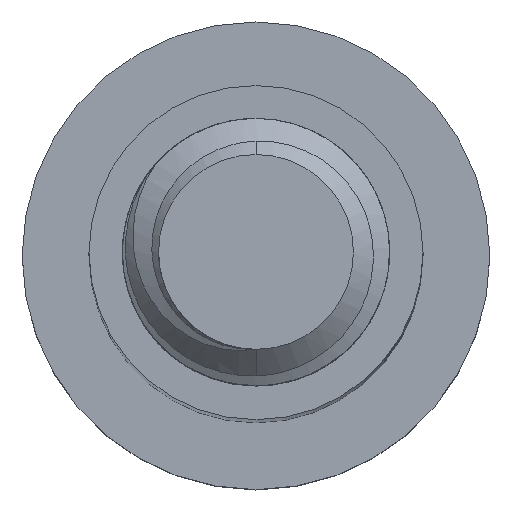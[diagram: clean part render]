
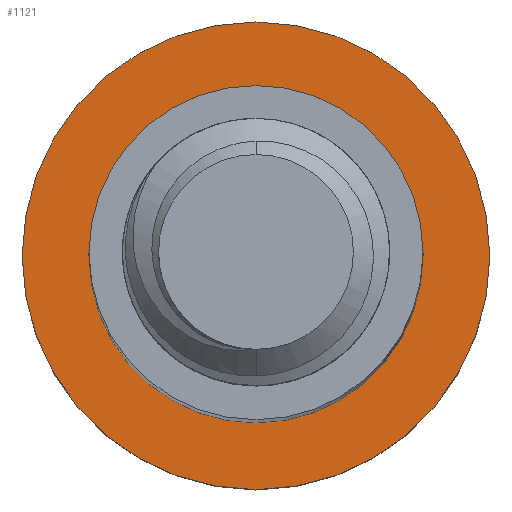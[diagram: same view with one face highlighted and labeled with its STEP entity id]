
A CAD part, top view. The second image highlights one B-rep face of the part: STEP entity #1121.
In plain terms, the highlighted planar face has unit normal (0, 0, 1).
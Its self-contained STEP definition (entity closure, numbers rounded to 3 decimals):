
#238 = CARTESIAN_POINT ( 'NONE',  ( 0., 0., -55. ) ) ;
#291 = ORIENTED_EDGE ( 'NONE', *, *, #2281, .F. ) ;
#336 = CIRCLE ( 'NONE', #2948, 7. ) ;
#356 = VERTEX_POINT ( 'NONE', #2694 ) ;
#473 = CIRCLE ( 'NONE', #2870, 7. ) ;
#585 = CARTESIAN_POINT ( 'NONE',  ( -7., 0., -55. ) ) ;
#678 = VERTEX_POINT ( 'NONE', #585 ) ;
#863 = DIRECTION ( 'NONE',  ( 0., 0., -1. ) ) ;
#915 = FACE_BOUND ( 'NONE', #3228, .T. ) ;
#948 = DIRECTION ( 'NONE',  ( -1., 0., 0. ) ) ;
#1121 = ADVANCED_FACE ( 'NONE', ( #915, #1468 ), #4093, .F. ) ;
#1200 = EDGE_CURVE ( 'NONE', #1536, #2828, #2665, .T. ) ;
#1299 = AXIS2_PLACEMENT_3D ( 'NONE', #4232, #1954, #948 ) ;
#1335 = EDGE_CURVE ( 'NONE', #2828, #1536, #4024, .T. ) ;
#1409 = CARTESIAN_POINT ( 'NONE',  ( -5., 0., -55. ) ) ;
#1468 = FACE_OUTER_BOUND ( 'NONE', #4140, .T. ) ;
#1532 = CARTESIAN_POINT ( 'NONE',  ( 0., 0., -55. ) ) ;
#1536 = VERTEX_POINT ( 'NONE', #1409 ) ;
#1551 = DIRECTION ( 'NONE',  ( -1., 0., 0. ) ) ;
#1645 = ORIENTED_EDGE ( 'NONE', *, *, #1335, .T. ) ;
#1782 = CARTESIAN_POINT ( 'NONE',  ( 0., 0., -55. ) ) ;
#1854 = DIRECTION ( 'NONE',  ( 0., 0., -1. ) ) ;
#1954 = DIRECTION ( 'NONE',  ( 0., 0., -1. ) ) ;
#2102 = CARTESIAN_POINT ( 'NONE',  ( 5., 0., -55. ) ) ;
#2141 = CARTESIAN_POINT ( 'NONE',  ( 0., 0., -55. ) ) ;
#2164 = DIRECTION ( 'NONE',  ( -1., 0., 0. ) ) ;
#2206 = DIRECTION ( 'NONE',  ( 0., 0., -1. ) ) ;
#2281 = EDGE_CURVE ( 'NONE', #356, #678, #473, .T. ) ;
#2325 = AXIS2_PLACEMENT_3D ( 'NONE', #2141, #1854, #2483 ) ;
#2438 = EDGE_CURVE ( 'NONE', #678, #356, #336, .T. ) ;
#2450 = DIRECTION ( 'NONE',  ( -1., 0., 0. ) ) ;
#2483 = DIRECTION ( 'NONE',  ( -1., 0., 0. ) ) ;
#2550 = ORIENTED_EDGE ( 'NONE', *, *, #2438, .F. ) ;
#2665 = CIRCLE ( 'NONE', #3207, 5. ) ;
#2694 = CARTESIAN_POINT ( 'NONE',  ( 7., 0., -55. ) ) ;
#2828 = VERTEX_POINT ( 'NONE', #2102 ) ;
#2870 = AXIS2_PLACEMENT_3D ( 'NONE', #238, #2206, #2164 ) ;
#2948 = AXIS2_PLACEMENT_3D ( 'NONE', #1782, #863, #2450 ) ;
#3013 = ORIENTED_EDGE ( 'NONE', *, *, #1200, .T. ) ;
#3207 = AXIS2_PLACEMENT_3D ( 'NONE', #1532, #3517, #1551 ) ;
#3228 = EDGE_LOOP ( 'NONE', ( #3013, #1645 ) ) ;
#3517 = DIRECTION ( 'NONE',  ( 0., 0., -1. ) ) ;
#4024 = CIRCLE ( 'NONE', #1299, 5. ) ;
#4093 = PLANE ( 'NONE',  #2325 ) ;
#4140 = EDGE_LOOP ( 'NONE', ( #291, #2550 ) ) ;
#4232 = CARTESIAN_POINT ( 'NONE',  ( 0., 0., -55. ) ) ;
